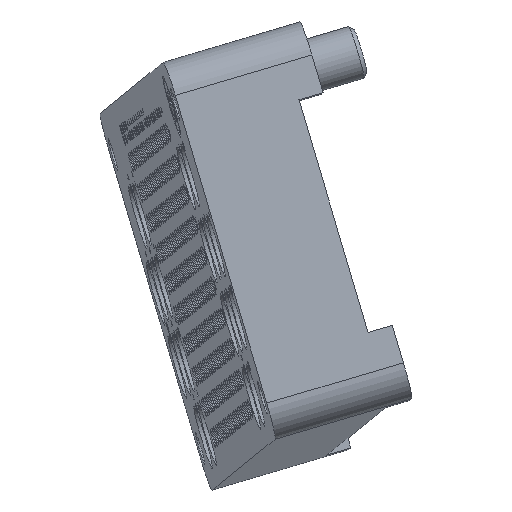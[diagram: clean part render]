
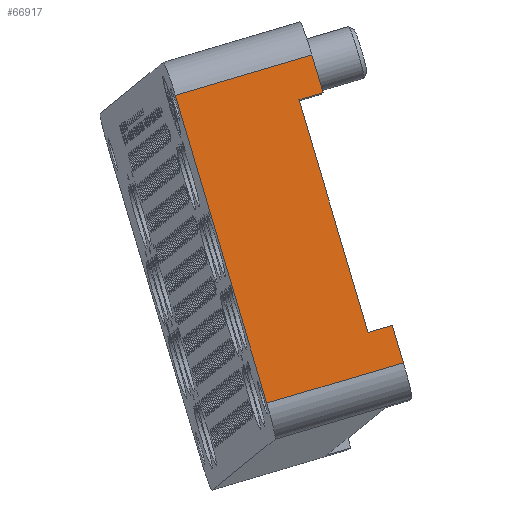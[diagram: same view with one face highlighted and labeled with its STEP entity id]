
A CAD part, top view. The second image highlights one B-rep face of the part: STEP entity #66917.
In plain terms, the highlighted planar face has unit normal (0.053, 0.041, 0.998).
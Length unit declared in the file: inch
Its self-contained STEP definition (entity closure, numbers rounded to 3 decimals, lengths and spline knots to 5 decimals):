
#46558=CARTESIAN_POINT('',(0.71913,1.67903,2.05709));
#46559=VERTEX_POINT('',#46558);
#46567=CARTESIAN_POINT('',(0.40218,2.74639,2.03017));
#46568=VERTEX_POINT('',#46567);
#46569=CARTESIAN_POINT('',(0.40218,2.74639,2.03017));
#46570=DIRECTION('',(0.285,-0.958,0.024));
#46571=VECTOR('',#46570,1.11375);
#46572=LINE('',#46569,#46571);
#46573=EDGE_CURVE('',#46568,#46559,#46572,.T.);
#66837=CARTESIAN_POINT('',(1.19295,1.81895,2.02631));
#66838=VERTEX_POINT('',#66837);
#66846=CARTESIAN_POINT('',(1.19295,1.81895,2.02631));
#66847=DIRECTION('',(-0.957,-0.283,0.062));
#66848=VECTOR('',#66847,0.495);
#66849=LINE('',#66846,#66848);
#66850=EDGE_CURVE('',#66838,#46559,#66849,.T.);
#66862=CARTESIAN_POINT('',(0.75667,2.98137,2.00181));
#66863=DIRECTION('',(0.053,0.041,0.998));
#66864=DIRECTION('',(0.957,0.283,-0.062));
#66865=AXIS2_PLACEMENT_3D('',#66862,#66863,#66864);
#66866=PLANE('',#66865);
#66867=ORIENTED_EDGE('',*,*,#66850,.F.);
#66868=CARTESIAN_POINT('',(1.15425,1.94928,2.02302));
#66869=VERTEX_POINT('',#66868);
#66870=CARTESIAN_POINT('',(1.19295,1.81895,2.02631));
#66871=DIRECTION('',(-0.285,0.958,-0.024));
#66872=VECTOR('',#66871,0.136);
#66873=LINE('',#66870,#66872);
#66874=EDGE_CURVE('',#66838,#66869,#66873,.T.);
#66875=ORIENTED_EDGE('',*,*,#66874,.T.);
#66876=CARTESIAN_POINT('',(1.07049,1.92455,2.02846));
#66877=VERTEX_POINT('',#66876);
#66878=CARTESIAN_POINT('',(1.07049,1.92455,2.02846));
#66879=DIRECTION('',(0.957,0.283,-0.062));
#66880=VECTOR('',#66879,0.0875);
#66881=LINE('',#66878,#66880);
#66882=EDGE_CURVE('',#66877,#66869,#66881,.T.);
#66883=ORIENTED_EDGE('',*,*,#66882,.F.);
#66884=CARTESIAN_POINT('',(0.83095,2.73124,2.00812));
#66885=VERTEX_POINT('',#66884);
#66886=CARTESIAN_POINT('',(0.83095,2.73124,2.00812));
#66887=DIRECTION('',(0.285,-0.958,0.024));
#66888=VECTOR('',#66887,0.84175);
#66889=LINE('',#66886,#66888);
#66890=EDGE_CURVE('',#66885,#66877,#66889,.T.);
#66891=ORIENTED_EDGE('',*,*,#66890,.F.);
#66892=CARTESIAN_POINT('',(0.9147,2.75597,2.00268));
#66893=VERTEX_POINT('',#66892);
#66894=CARTESIAN_POINT('',(0.83095,2.73124,2.00812));
#66895=DIRECTION('',(0.957,0.283,-0.062));
#66896=VECTOR('',#66895,0.0875);
#66897=LINE('',#66894,#66896);
#66898=EDGE_CURVE('',#66885,#66893,#66897,.T.);
#66899=ORIENTED_EDGE('',*,*,#66898,.T.);
#66900=CARTESIAN_POINT('',(0.876,2.88631,1.99939));
#66901=VERTEX_POINT('',#66900);
#66902=CARTESIAN_POINT('',(0.9147,2.75597,2.00268));
#66903=DIRECTION('',(-0.285,0.958,-0.024));
#66904=VECTOR('',#66903,0.136);
#66905=LINE('',#66902,#66904);
#66906=EDGE_CURVE('',#66893,#66901,#66905,.T.);
#66907=ORIENTED_EDGE('',*,*,#66906,.T.);
#66908=CARTESIAN_POINT('',(0.40218,2.74639,2.03017));
#66909=DIRECTION('',(0.957,0.283,-0.062));
#66910=VECTOR('',#66909,0.495);
#66911=LINE('',#66908,#66910);
#66912=EDGE_CURVE('',#46568,#66901,#66911,.T.);
#66913=ORIENTED_EDGE('',*,*,#66912,.F.);
#66914=ORIENTED_EDGE('',*,*,#46573,.T.);
#66915=EDGE_LOOP('',(#66867,#66875,#66883,#66891,#66899,#66907,#66913,#66914));
#66916=FACE_OUTER_BOUND('',#66915,.T.);
#66917=ADVANCED_FACE('',(#66916),#66866,.T.);
